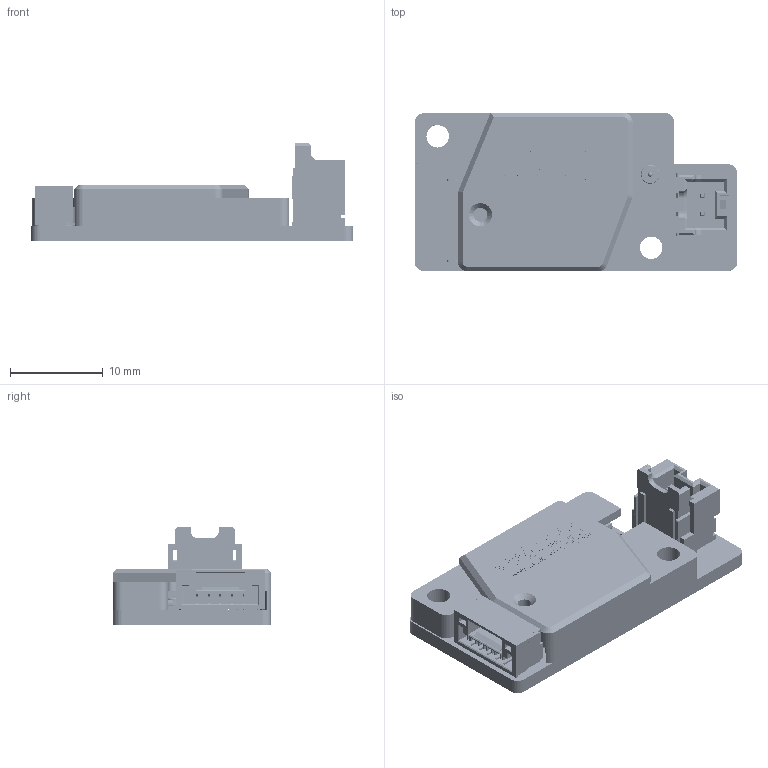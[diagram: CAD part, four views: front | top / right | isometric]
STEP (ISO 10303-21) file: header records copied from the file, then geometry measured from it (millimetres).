
FILE_DESCRIPTION (( 'STEP AP214' ), '1' );
FILE_NAME ('WTLLS-C定制款（竖端口）.STEP', '2026-03-02T07:20:57', ( 'PC' ), ( 'Microsoft' ), 'SwSTEP 2.0', 'SolidWorks 2025', '' );
FILE_SCHEMA (( 'AUTOMOTIVE_DESIGN' ));
Length unit declared in the file: millimetre
Products named in the file (72): C25~C0805~C0805_L2.0-W1.3-H1.3~z3Pf; SOT-23-5_L3.0-W1.7-P0.95-LS2.8-BR~SOT-23-5_L2.9-W1.6-H1.1-LS2.8-P0.95~sq5I; Board~ceWT; R0805~R0805_L2.0-W1.3-H0.6~AeF6; C0402~C0402_L1.0-W0.5-H0.5~rGmm; F3~F0603~F0603_L1.7-W0.9-H0.7~3fXD; R6~R0402~R0402_L1.0-W0.5-H0.5~AiM5; R12~R0805~R0805_L2.0-W1.3-H0.6~N36Y; C10~C0402~C0402_L1.0-W0.5-H0.5~J13L; LED1~LED-ARRAY-SMD_0603-4P-L1.6-W1.6-BL-RD~User Library-LED_0605-2~E2kh; U10~SOD-323_L1.8-W1.3-LS2.7-BI~SOD-323_L1.8-W1.3-LS2.7-BI~PLKc; R25~R0603~R0603_L1.6-W0.8-H0.8~EyIA; 3D_PCB_clsensor_v1.31_XLH_1.6mm_2026-01-06_2(2); R0603~R0603_L1.6-W0.8-H0.8~s3A7; C3~C0402~C0402_L1.0-W0.5-H0.5~WPLs; LOGO; C16~C0603~C0603_L1.6-W0.8-H0.8~SYvq; LED-ARRAY-SMD_0603-4P-L1.6-W1.6-BL-RD~User Library-LED_0605-2~k4F7-1; SOT-23-3_L3.0-W1.7-P0.95-LS2.9-BR~SOT-23-3L_L2.9-W1.6-H1.1-LS2.8-P0.95~lB8I; QFN-32_L4.0-W4.0-P0.40-BL-EP2.7~QFN-32_L4.0-W4.0-H0.8-P0.40~wi6C; F2~F0603~F0603_L1.7-W0.9-H0.7~viZm; SOT-23-3_L2.9-W1.3-P1.90-LS2.4-BR~SOT-23-3P_L2.9-W1.3-H1.0-LS2.4-P0.95~rUo5; U3~SOT-23-6_L2.9-W1.6-P0.95-LS2.8-BL~SOT-23-6_L2.9-W1.6-H1.5-LS2.8-P0.95~JAUA; R5~R0402~R0402_L1.0-W0.5-H0.5~x6FP; U7~SOD-323_L1.8-W1.3-LS2.7-BI~SOD-323_L1.8-W1.3-LS2.7-BI~9pOS; WTLLS-C定制款（竖端口）; C4~C0402~C0402_L1.0-W0.5-H0.5~cKBm; C7~C0402~C0402_L1.0-W0.5-H0.5~9AQP; F1~F0603~F0603_L1.7-W0.9-H0.7~J2JI; C9~C0402~C0402_L1.0-W0.5-H0.5~3G3k; R23~R0402~R0402_L1.0-W0.5-H0.4~IqYY; CN1~CONN-SMD_5P-P1.25_WAFER-GH1.25-5PWT-W1-P~CONN-SMD_5P-P1.25_WAFER-GH1.25-5PWT-W1-P~9gXz; R4~R0402~R0402_L1.0-W0.5-H0.4~yRYW; SOT-323_L2.0-W1.3-P1.30-LS2.1-BR~SOT-323_L2.0-W1.3-H1.0-LS2.1-P1.30~uL2y; LED-ARRAY-SMD_0603-4P-L1.6-W1.6-BL-RD~User Library-LED_0605-2~k4F7-0; R2~R0402~R0402_L1.0-W0.5-H0.5~DoZc; U13~SOD-323_L1.8-W1.3-LS2.7-BI~SOD-323_L1.8-W1.3-LS2.7-BI~Nx0S; C5~C0402~C0402_L1.0-W0.5-H0.5~gOTT; C0805~C0805_L2.0-W1.3-H1.3~uuvH; C12~C0402~C0402_L1.0-W0.5-H0.5~RHqd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
Assembly tree (95 placements, depth 4):
  WTLLS-C定制款（竖端口）
    3D_PCB_clsensor_v1.31_XLH_1.6mm_2026-01-06_2(2)
      U7~SOD-323_L1.8-W1.3-LS2.7-BI~SOD-323_L1.8-W1.3-LS2.7-BI~9pOS
        SOD-323_L1.8-W1.3-LS2.7-BI~SOD-323_L1.8-W1.3-LS2.7-BI~Guzp
      U10~SOD-323_L1.8-W1.3-LS2.7-BI~SOD-323_L1.8-W1.3-LS2.7-BI~PLKc
        SOD-323_L1.8-W1.3-LS2.7-BI~SOD-323_L1.8-W1.3-LS2.7-BI~Guzp
      U12~SOD-323_L1.8-W1.3-LS2.7-BI~SOD-323_L1.8-W1.3-LS2.7-BI~ZEoK
        SOD-323_L1.8-W1.3-LS2.7-BI~SOD-323_L1.8-W1.3-LS2.7-BI~Guzp
      U13~SOD-323_L1.8-W1.3-LS2.7-BI~SOD-323_L1.8-W1.3-LS2.7-BI~Nx0S
        SOD-323_L1.8-W1.3-LS2.7-BI~SOD-323_L1.8-W1.3-LS2.7-BI~Guzp
      C12~C0402~C0402_L1.0-W0.5-H0.5~RHqd
        C0402~C0402_L1.0-W0.5-H0.5~rGmm
      C3~C0402~C0402_L1.0-W0.5-H0.5~WPLs
        C0402~C0402_L1.0-W0.5-H0.5~rGmm
      C4~C0402~C0402_L1.0-W0.5-H0.5~cKBm
        C0402~C0402_L1.0-W0.5-H0.5~rGmm
      C6~C0402~C0402_L1.0-W0.5-H0.5~mU5M
        C0402~C0402_L1.0-W0.5-H0.5~rGmm
      C7~C0402~C0402_L1.0-W0.5-H0.5~9AQP
        C0402~C0402_L1.0-W0.5-H0.5~rGmm
      C8~C0402~C0402_L1.0-W0.5-H0.5~CZFj
        C0402~C0402_L1.0-W0.5-H0.5~rGmm
      C10~C0402~C0402_L1.0-W0.5-H0.5~J13L
        C0402~C0402_L1.0-W0.5-H0.5~rGmm
      C11~C0402~C0402_L1.0-W0.5-H0.5~Ma7L
        C0402~C0402_L1.0-W0.5-H0.5~rGmm
      C5~C0402~C0402_L1.0-W0.5-H0.5~gOTT
        C0402~C0402_L1.0-W0.5-H0.5~rGmm
      C9~C0402~C0402_L1.0-W0.5-H0.5~3G3k
        C0402~C0402_L1.0-W0.5-H0.5~rGmm
      C25~C0805~C0805_L2.0-W1.3-H1.3~z3Pf
        C0805~C0805_L2.0-W1.3-H1.3~uuvH
      C14~C0603~C0603_L1.6-W0.8-H0.8~sOZw
        C0603~C0603_L1.6-W0.8-H0.8~aUyD
      C16~C0603~C0603_L1.6-W0.8-H0.8~SYvq
        C0603~C0603_L1.6-W0.8-H0.8~aUyD
      R3~R0402~R0402_L1.0-W0.5-H0.4~y2hz
        R0402~R0402_L1.0-W0.5-H0.4~eUNC
      R4~R0402~R0402_L1.0-W0.5-H0.4~yRYW
        R0402~R0402_L1.0-W0.5-H0.4~eUNC
      R11~R0402~R0402_L1.0-W0.5-H0.4~fWHE
        R0402~R0402_L1.0-W0.5-H0.4~eUNC
      R22~R0402~R0402_L1.0-W0.5-H0.4~ORk8
        R0402~R0402_L1.0-W0.5-H0.4~eUNC
      R23~R0402~R0402_L1.0-W0.5-H0.4~IqYY
        R0402~R0402_L1.0-W0.5-H0.4~eUNC
      R26~R0402~R0402_L1.0-W0.5-H0.4~Mzfj
        R0402~R0402_L1.0-W0.5-H0.4~eUNC
      R30~R0402~R0402_L1.0-W0.5-H0.4~C9xz
        R0402~R0402_L1.0-W0.5-H0.4~eUNC
      R5~R0402~R0402_L1.0-W0.5-H0.5~x6FP
        R0402~R0402_L1.0-W0.5-H0.5~zKS4
      R2~R0402~R0402_L1.0-W0.5-H0.5~DoZc
        R0402~R0402_L1.0-W0.5-H0.5~zKS4
      R6~R0402~R0402_L1.0-W0.5-H0.5~AiM5
        R0402~R0402_L1.0-W0.5-H0.5~zKS4
      R7~R0402~R0402_L1.0-W0.5-H0.5~WFhs
        R0402~R0402_L1.0-W0.5-H0.5~zKS4
      R25~R0603~R0603_L1.6-W0.8-H0.8~EyIA
        R0603~R0603_L1.6-W0.8-H0.8~s3A7
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Bounding box: 34.77 x 17.1 x 10.5 mm (x, y, z)
Volume: 2116.5 mm3; surface area: 4123.1 mm2
Topology: 166 solids, 206 shells, 16190 faces, 43119 edges, 27961 vertices
Faces by surface type: plane 9234, bspline 4641, cylinder 1867, sphere 306, torus 126, cone 16
Entity records: 402688 total; most frequent: CARTESIAN_POINT 121351, ORIENTED_EDGE 47109, DIRECTION 32120, EDGE_CURVE 23757, VERTEX_POINT 15460, VECTOR 15080, LINE 15080, EDGE_LOOP 9531
